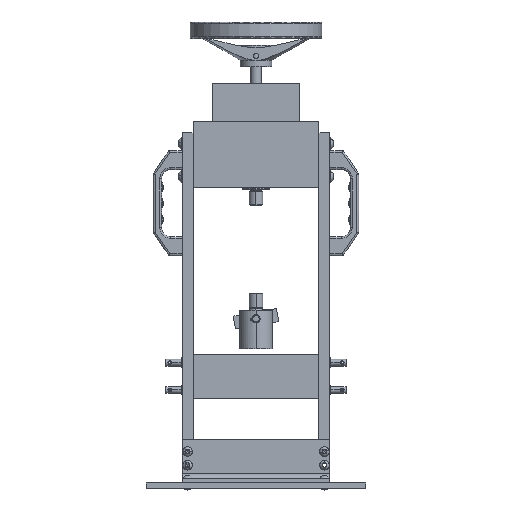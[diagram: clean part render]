
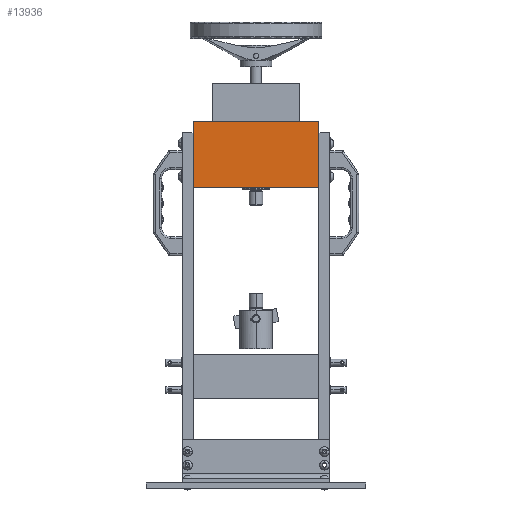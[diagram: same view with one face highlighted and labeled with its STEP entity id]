
A CAD part, top view. The second image highlights one B-rep face of the part: STEP entity #13936.
In plain terms, the highlighted planar face has unit normal (0, 0, 1).
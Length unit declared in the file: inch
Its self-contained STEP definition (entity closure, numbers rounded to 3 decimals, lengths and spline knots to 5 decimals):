
#797 = B_SPLINE_CURVE_WITH_KNOTS ( 'NONE', 3,
 ( #25013, #38508, #8083, #21681 ),
 .UNSPECIFIED., .F., .F.,
 ( 4, 4 ),
 ( 0., 1. ),
 .UNSPECIFIED. ) ;
#950 = VERTEX_POINT ( 'NONE', #40701 ) ;
#2114 = PLANE ( 'NONE',  #15855 ) ;
#2501 = CARTESIAN_POINT ( 'NONE',  ( 2.875, 13.5, 0.75 ) ) ;
#3124 = CARTESIAN_POINT ( 'NONE',  ( 0.95833, 16.5, 0.75 ) ) ;
#4742 = B_SPLINE_CURVE_WITH_KNOTS ( 'NONE', 3,
 ( #33532, #3124, #16675, #30210 ),
 .UNSPECIFIED., .F., .F.,
 ( 4, 4 ),
 ( 0., 1. ),
 .UNSPECIFIED. ) ;
#5460 = B_SPLINE_CURVE_WITH_KNOTS ( 'NONE', 3,
 ( #13140, #26703, #40210, #9783 ),
 .UNSPECIFIED., .F., .F.,
 ( 4, 4 ),
 ( 0., 1. ),
 .UNSPECIFIED. ) ;
#5809 = CARTESIAN_POINT ( 'NONE',  ( 2.875, 16.5, 0.75 ) ) ;
#6561 = EDGE_LOOP ( 'NONE', ( #29940, #29776, #29237, #29035 ) ) ;
#7575 = VERTEX_POINT ( 'NONE', #25428 ) ;
#8079 = CARTESIAN_POINT ( 'NONE',  ( -2.875, 16.5, 0.75 ) ) ;
#8083 = CARTESIAN_POINT ( 'NONE',  ( -0.95833, 13.5, 0.75 ) ) ;
#9783 = CARTESIAN_POINT ( 'NONE',  ( -2.875, 13.5, 0.75 ) ) ;
#13140 = CARTESIAN_POINT ( 'NONE',  ( -2.875, 16.5, 0.75 ) ) ;
#13936 = ADVANCED_FACE ( 'NONE', ( #32544 ), #2114, .F. ) ;
#15657 = CARTESIAN_POINT ( 'NONE',  ( -2.875, 13.5, 0.75 ) ) ;
#15855 = AXIS2_PLACEMENT_3D ( 'NONE', #15657, #29202, #42715 ) ;
#16675 = CARTESIAN_POINT ( 'NONE',  ( -0.95833, 16.5, 0.75 ) ) ;
#19411 = CARTESIAN_POINT ( 'NONE',  ( 2.875, 15.5, 0.75 ) ) ;
#21681 = CARTESIAN_POINT ( 'NONE',  ( -2.875, 13.5, 0.75 ) ) ;
#21934 = EDGE_CURVE ( 'NONE', #30497, #950, #797, .T. ) ;
#25013 = CARTESIAN_POINT ( 'NONE',  ( 2.875, 13.5, 0.75 ) ) ;
#25428 = CARTESIAN_POINT ( 'NONE',  ( 2.875, 16.5, 0.75 ) ) ;
#26703 = CARTESIAN_POINT ( 'NONE',  ( -2.875, 15.5, 0.75 ) ) ;
#27959 = CARTESIAN_POINT ( 'NONE',  ( 2.875, 13.5, 0.75 ) ) ;
#28165 = VERTEX_POINT ( 'NONE', #8079 ) ;
#29035 = ORIENTED_EDGE ( 'NONE', *, *, #39637, .T. ) ;
#29202 = DIRECTION ( 'NONE',  ( 0., 0., -1. ) ) ;
#29237 = ORIENTED_EDGE ( 'NONE', *, *, #34251, .F. ) ;
#29776 = ORIENTED_EDGE ( 'NONE', *, *, #21934, .F. ) ;
#29940 = ORIENTED_EDGE ( 'NONE', *, *, #33328, .T. ) ;
#30210 = CARTESIAN_POINT ( 'NONE',  ( -2.875, 16.5, 0.75 ) ) ;
#30497 = VERTEX_POINT ( 'NONE', #27959 ) ;
#32544 = FACE_OUTER_BOUND ( 'NONE', #6561, .T. ) ;
#32935 = CARTESIAN_POINT ( 'NONE',  ( 2.875, 14.5, 0.75 ) ) ;
#33328 = EDGE_CURVE ( 'NONE', #28165, #950, #5460, .T. ) ;
#33532 = CARTESIAN_POINT ( 'NONE',  ( 2.875, 16.5, 0.75 ) ) ;
#34251 = EDGE_CURVE ( 'NONE', #7575, #30497, #39273, .T. ) ;
#38508 = CARTESIAN_POINT ( 'NONE',  ( 0.95833, 13.5, 0.75 ) ) ;
#39273 = B_SPLINE_CURVE_WITH_KNOTS ( 'NONE', 3,
 ( #5809, #19411, #32935, #2501 ),
 .UNSPECIFIED., .F., .F.,
 ( 4, 4 ),
 ( 0., 1. ),
 .UNSPECIFIED. ) ;
#39637 = EDGE_CURVE ( 'NONE', #7575, #28165, #4742, .T. ) ;
#40210 = CARTESIAN_POINT ( 'NONE',  ( -2.875, 14.5, 0.75 ) ) ;
#40701 = CARTESIAN_POINT ( 'NONE',  ( -2.875, 13.5, 0.75 ) ) ;
#42715 = DIRECTION ( 'NONE',  ( 0., -1., 0. ) ) ;
